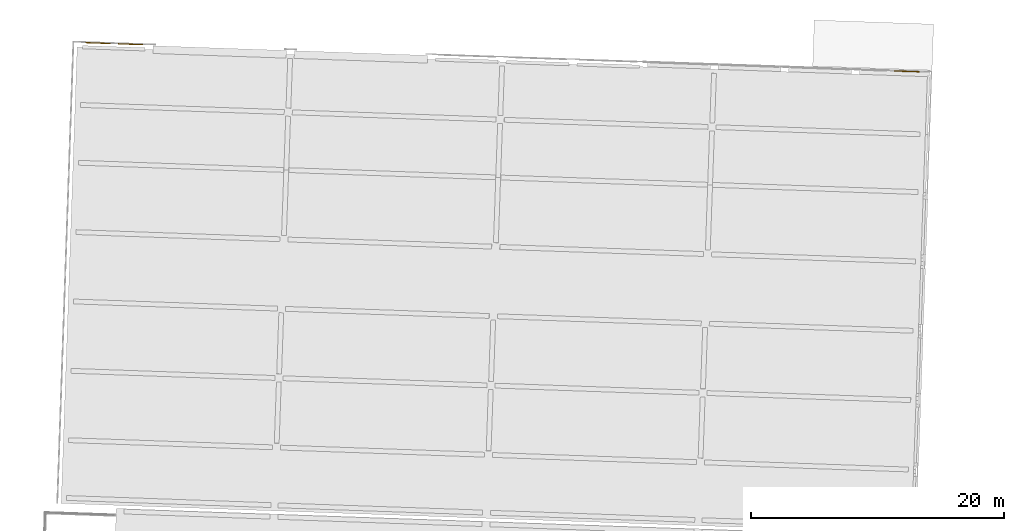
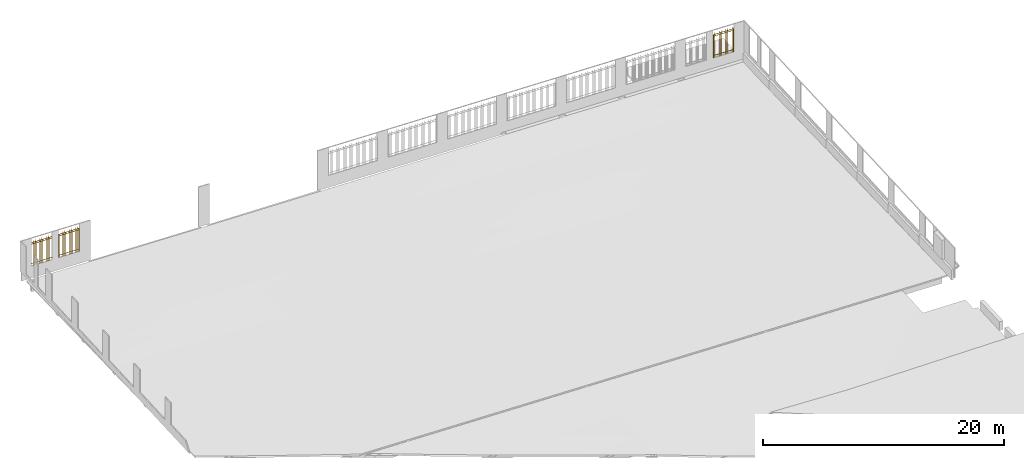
# One storey, part 16 of 17: 3 railings.
"""IFC2X3 building model written with IfcOpenShell, lengths in feet."""

from ifc_helpers import new_model, entity, si_unit, converted_unit, derived_unit, direction, frame, frame_2d, origin, origin_2d_with_axis, place, context, subcontext, project, spatial, rectangle, extrude, element, save


model = new_model("IFC2X3")

# Units and contexts
model_context = context("Model", 3, precision=0.0001, world=origin(), true_north=direction((0.999390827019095, 0.0348994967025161)))
body_context = subcontext(model_context, "Body", "Model", "MODEL_VIEW")
ifc_project = project(units=[converted_unit("LENGTHUNIT", "FOOT", entity("IfcRatioMeasure", 0.3048), si_unit("LENGTHUNIT", "METRE"), dimensions=[1, 0, 0, 0, 0, 0, 0]), converted_unit("AREAUNIT", "SQUARE FOOT", entity("IfcRatioMeasure", 0.09290304), si_unit("AREAUNIT", "SQUARE_METRE"), dimensions=[2, 0, 0, 0, 0, 0, 0]), converted_unit("VOLUMEUNIT", "CUBIC FOOT", entity("IfcRatioMeasure", 0.028316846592), si_unit("VOLUMEUNIT", "CUBIC_METRE"), dimensions=[3, 0, 0, 0, 0, 0, 0]), converted_unit("PLANEANGLEUNIT", "DEGREE", entity("IfcRatioMeasure", 0.0174532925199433), si_unit("PLANEANGLEUNIT", "RADIAN"), dimensions=[0, 0, 0, 0, 0, 0, 0]), si_unit("MASSUNIT", "GRAM", prefix="KILO"), si_unit("TIMEUNIT", "SECOND"), si_unit("FREQUENCYUNIT", "HERTZ"), si_unit("THERMODYNAMICTEMPERATUREUNIT", "DEGREE_CELSIUS"), derived_unit("THERMALTRANSMITTANCEUNIT", [(si_unit("MASSUNIT", "GRAM", prefix="KILO"), 1), (si_unit("THERMODYNAMICTEMPERATUREUNIT", "KELVIN"), -1), (si_unit("TIMEUNIT", "SECOND"), -3)]), derived_unit("VOLUMETRICFLOWRATEUNIT", [(si_unit("LENGTHUNIT", "METRE"), 3), (si_unit("TIMEUNIT", "SECOND"), -1)]), si_unit("ELECTRICCURRENTUNIT", "AMPERE"), si_unit("ELECTRICVOLTAGEUNIT", "VOLT"), si_unit("POWERUNIT", "WATT"), si_unit("FORCEUNIT", "NEWTON"), si_unit("ILLUMINANCEUNIT", "LUX"), si_unit("LUMINOUSFLUXUNIT", "LUMEN"), si_unit("LUMINOUSINTENSITYUNIT", "CANDELA"), derived_unit("USERDEFINED", [(si_unit("MASSUNIT", "GRAM", prefix="KILO"), -1), (si_unit("LENGTHUNIT", "METRE"), -2), (si_unit("TIMEUNIT", "SECOND"), 3), (si_unit("LUMINOUSFLUXUNIT", "LUMEN"), 1)]), derived_unit("LINEARVELOCITYUNIT", [(si_unit("LENGTHUNIT", "METRE"), 1), (si_unit("TIMEUNIT", "SECOND"), -1)]), si_unit("PRESSUREUNIT", "PASCAL"), derived_unit("USERDEFINED", [(si_unit("LENGTHUNIT", "METRE"), -2), (si_unit("MASSUNIT", "GRAM", prefix="KILO"), 1), (si_unit("TIMEUNIT", "SECOND"), -2)])], contexts=[model_context])

# Site, building, storey
site_placement = place(None, frame((892.518771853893, 322.38689265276, 0.00393700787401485), z_axis=(0.0, 0.0, 1.0), x_axis=(0.0348994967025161, 0.999390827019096, 0.0)))
site = spatial("IfcSite", under=ifc_project, at=site_placement, Name="Default", CompositionType="ELEMENT")
building_placement = place(site_placement, origin())
building = spatial("IfcBuilding", under=site, at=building_placement, CompositionType="ELEMENT")
storey_placement = place(building_placement, frame((0.0, 0.0, 557.0)))
storey = spatial("IfcBuildingStorey", under=building, at=storey_placement, Name="Existing Garage - 1st Level", CompositionType="ELEMENT", Elevation=557.0)

# Railings
railing_1_placement = place(storey_placement, origin())
element("IfcRailing", 1, at=railing_1_placement, inside=storey, Name="Railing:Garage Security Grille 8'-4\" High", ObjectType="Railing:Garage Security Grille 8'-4\" High", PredefinedType="NOTDEFINED", context=body_context, shape_type="SweptSolid", body=[
    extrude(rectangle(XDim=0.0625, YDim=0.0625, at=origin_2d_with_axis()), frame((224.125209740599, 244.805620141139, 0.75), z_axis=(0.0, 0.0, 1.0), x_axis=(0.0, 1.0, 0.0)), (0.0, 0.0, 1.0), 7.66666666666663),
    extrude(rectangle(XDim=0.0625, YDim=0.0625, at=origin_2d_with_axis()), frame((224.125209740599, 244.472286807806, 0.75), z_axis=(0.0, 0.0, 1.0), x_axis=(0.0, 1.0, 0.0)), (0.0, 0.0, 1.0), 8.33333333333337),
    extrude(rectangle(XDim=0.0625, YDim=0.0625, at=origin_2d_with_axis()), frame((224.125209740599, 244.138953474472, 0.75), z_axis=(0.0, 0.0, 1.0), x_axis=(0.0, 1.0, 0.0)), (0.0, 0.0, 1.0), 7.66666666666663),
    extrude(rectangle(XDim=0.0625, YDim=0.0625, at=origin_2d_with_axis()), frame((224.125209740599, 243.805620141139, 0.75), z_axis=(0.0, 0.0, 1.0), x_axis=(0.0, 1.0, 0.0)), (0.0, 0.0, 1.0), 8.33333333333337),
    extrude(rectangle(XDim=0.0625, YDim=0.0625, at=origin_2d_with_axis()), frame((224.125209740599, 243.472286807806, 0.75), z_axis=(0.0, 0.0, 1.0), x_axis=(0.0, 1.0, 0.0)), (0.0, 0.0, 1.0), 7.66666666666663),
    extrude(rectangle(XDim=0.0625, YDim=0.0625, at=origin_2d_with_axis()), frame((224.125209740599, 243.138953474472, 0.75), z_axis=(0.0, 0.0, 1.0), x_axis=(0.0, 1.0, 0.0)), (0.0, 0.0, 1.0), 8.33333333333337),
    extrude(rectangle(XDim=0.0625, YDim=0.0625, at=origin_2d_with_axis()), frame((224.125209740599, 242.805620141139, 0.75), z_axis=(0.0, 0.0, 1.0), x_axis=(0.0, 1.0, 0.0)), (0.0, 0.0, 1.0), 7.66666666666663),
    extrude(rectangle(XDim=0.0625, YDim=0.0625, at=origin_2d_with_axis()), frame((224.125209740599, 242.472286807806, 0.75), z_axis=(0.0, 0.0, 1.0), x_axis=(0.0, 1.0, 0.0)), (0.0, 0.0, 1.0), 8.33333333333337),
    extrude(rectangle(XDim=0.0625, YDim=0.0625, at=origin_2d_with_axis()), frame((224.125209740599, 242.138953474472, 0.75), z_axis=(0.0, 0.0, 1.0), x_axis=(0.0, 1.0, 0.0)), (0.0, 0.0, 1.0), 7.66666666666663),
    extrude(rectangle(XDim=0.0625, YDim=0.0625, at=origin_2d_with_axis()), frame((224.125209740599, 241.805620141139, 0.75), z_axis=(0.0, 0.0, 1.0), x_axis=(0.0, 1.0, 0.0)), (0.0, 0.0, 1.0), 8.33333333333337),
    extrude(rectangle(XDim=0.0625, YDim=0.0625, at=origin_2d_with_axis()), frame((224.125209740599, 241.472286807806, 0.75), z_axis=(0.0, 0.0, 1.0), x_axis=(0.0, 1.0, 0.0)), (0.0, 0.0, 1.0), 7.66666666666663),
    extrude(rectangle(XDim=0.0625, YDim=0.0625, at=origin_2d_with_axis()), frame((224.125209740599, 241.138953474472, 0.75), z_axis=(0.0, 0.0, 1.0), x_axis=(0.0, 1.0, 0.0)), (0.0, 0.0, 1.0), 8.33333333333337),
    extrude(rectangle(XDim=0.0625, YDim=0.0625, at=origin_2d_with_axis()), frame((224.125209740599, 240.805620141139, 0.75), z_axis=(0.0, 0.0, 1.0), x_axis=(0.0, 1.0, 0.0)), (0.0, 0.0, 1.0), 7.66666666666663),
    extrude(rectangle(XDim=0.0625, YDim=0.0625, at=origin_2d_with_axis()), frame((224.125209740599, 240.472286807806, 0.75), z_axis=(0.0, 0.0, 1.0), x_axis=(0.0, 1.0, 0.0)), (0.0, 0.0, 1.0), 8.33333333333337),
    extrude(rectangle(XDim=0.0625, YDim=0.0625, at=origin_2d_with_axis()), frame((224.125209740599, 240.138953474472, 0.75), z_axis=(0.0, 0.0, 1.0), x_axis=(0.0, 1.0, 0.0)), (0.0, 0.0, 1.0), 7.66666666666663),
    extrude(rectangle(XDim=0.0625, YDim=0.0625, at=origin_2d_with_axis()), frame((224.125209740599, 239.805620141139, 0.75), z_axis=(0.0, 0.0, 1.0), x_axis=(0.0, 1.0, 0.0)), (0.0, 0.0, 1.0), 8.33333333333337),
    extrude(rectangle(XDim=0.0625, YDim=0.0625, at=origin_2d_with_axis()), frame((224.125209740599, 239.472286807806, 0.75), z_axis=(0.0, 0.0, 1.0), x_axis=(0.0, 1.0, 0.0)), (0.0, 0.0, 1.0), 7.66666666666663),
    extrude(rectangle(XDim=0.0625, YDim=0.0625, at=origin_2d_with_axis()), frame((224.125209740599, 239.138953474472, 0.75), z_axis=(0.0, 0.0, 1.0), x_axis=(0.0, 1.0, 0.0)), (0.0, 0.0, 1.0), 8.33333333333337),
    extrude(rectangle(XDim=0.0625, YDim=0.0625, at=origin_2d_with_axis()), frame((224.125209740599, 238.805620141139, 0.75), z_axis=(0.0, 0.0, 1.0), x_axis=(0.0, 1.0, 0.0)), (0.0, 0.0, 1.0), 7.66666666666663),
    extrude(rectangle(XDim=0.0625, YDim=0.0625, at=origin_2d_with_axis()), frame((224.125209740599, 244.972286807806, 0.75), z_axis=(0.0, 0.0, 1.0), x_axis=(0.0, 1.0, 0.0)), (0.0, 0.0, 1.0), 7.66666666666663),
    extrude(rectangle(XDim=0.0625, YDim=0.0625, at=origin_2d_with_axis()), frame((224.125209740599, 238.638953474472, 0.75), z_axis=(0.0, 0.0, 1.0), x_axis=(0.0, 1.0, 0.0)), (0.0, 0.0, 1.0), 7.66666666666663),
    extrude(rectangle(XDim=6.4166666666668, YDim=0.166666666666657, at=frame_2d((0.0, 1.4210854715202e-14), x_axis=(1.0, 0.0))), frame((224.1252097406, 241.805620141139, 8.41666666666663), z_axis=(0.0, 0.0, 1.0), x_axis=(0.0, 1.0, 0.0)), (0.0, 0.0, 1.0), 0.0833333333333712),
    extrude(rectangle(XDim=6.4166666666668, YDim=0.166666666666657, at=frame_2d((0.0, 1.4210854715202e-14), x_axis=(1.0, 0.0))), frame((224.1252097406, 241.805620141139, 1.5), z_axis=(0.0, 0.0, 1.0), x_axis=(0.0, 1.0, 0.0)), (0.0, 0.0, 1.0), 0.0833333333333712),
    extrude(rectangle(XDim=6.4166666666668, YDim=0.166666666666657, at=frame_2d((0.0, 1.4210854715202e-14), x_axis=(1.0, 0.0))), frame((224.1252097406, 241.805620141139, 7.91666666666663), z_axis=(0.0, 0.0, 1.0), x_axis=(0.0, 1.0, 0.0)), (0.0, 0.0, 1.0), 0.0833333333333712),
])
railing_2_placement = place(storey_placement, origin())
element("IfcRailing", 2, at=railing_2_placement, inside=storey, Name="Railing:Garage Security Grille 8'-4\" High", ObjectType="Railing:Garage Security Grille 8'-4\" High", PredefinedType="NOTDEFINED", context=body_context, shape_type="SweptSolid", body=[
    extrude(rectangle(XDim=0.0625, YDim=0.0625, at=origin_2d_with_axis()), frame((224.125209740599, 446.305620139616, 0.75), z_axis=(0.0, 0.0, 1.0), x_axis=(0.0, 1.0, 0.0)), (0.0, 0.0, 1.0), 7.66666666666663),
    extrude(rectangle(XDim=0.0625, YDim=0.0625, at=origin_2d_with_axis()), frame((224.125209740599, 445.972286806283, 0.75), z_axis=(0.0, 0.0, 1.0), x_axis=(0.0, 1.0, 0.0)), (0.0, 0.0, 1.0), 8.33333333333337),
    extrude(rectangle(XDim=0.0625, YDim=0.0625, at=origin_2d_with_axis()), frame((224.125209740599, 445.63895347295, 0.75), z_axis=(0.0, 0.0, 1.0), x_axis=(0.0, 1.0, 0.0)), (0.0, 0.0, 1.0), 7.66666666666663),
    extrude(rectangle(XDim=0.0625, YDim=0.0625, at=origin_2d_with_axis()), frame((224.125209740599, 445.305620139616, 0.75), z_axis=(0.0, 0.0, 1.0), x_axis=(0.0, 1.0, 0.0)), (0.0, 0.0, 1.0), 8.33333333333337),
    extrude(rectangle(XDim=0.0625, YDim=0.0625, at=origin_2d_with_axis()), frame((224.125209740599, 444.972286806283, 0.75), z_axis=(0.0, 0.0, 1.0), x_axis=(0.0, 1.0, 0.0)), (0.0, 0.0, 1.0), 7.66666666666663),
    extrude(rectangle(XDim=0.0625, YDim=0.0625, at=origin_2d_with_axis()), frame((224.125209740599, 444.63895347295, 0.75), z_axis=(0.0, 0.0, 1.0), x_axis=(0.0, 1.0, 0.0)), (0.0, 0.0, 1.0), 8.33333333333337),
    extrude(rectangle(XDim=0.0625, YDim=0.0625, at=origin_2d_with_axis()), frame((224.125209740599, 444.305620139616, 0.75), z_axis=(0.0, 0.0, 1.0), x_axis=(0.0, 1.0, 0.0)), (0.0, 0.0, 1.0), 7.66666666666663),
    extrude(rectangle(XDim=0.0625, YDim=0.0625, at=origin_2d_with_axis()), frame((224.125209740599, 443.972286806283, 0.75), z_axis=(0.0, 0.0, 1.0), x_axis=(0.0, 1.0, 0.0)), (0.0, 0.0, 1.0), 8.33333333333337),
    extrude(rectangle(XDim=0.0625, YDim=0.0625, at=origin_2d_with_axis()), frame((224.125209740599, 443.63895347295, 0.75), z_axis=(0.0, 0.0, 1.0), x_axis=(0.0, 1.0, 0.0)), (0.0, 0.0, 1.0), 7.66666666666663),
    extrude(rectangle(XDim=0.0625, YDim=0.0625, at=origin_2d_with_axis()), frame((224.125209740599, 443.305620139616, 0.75), z_axis=(0.0, 0.0, 1.0), x_axis=(0.0, 1.0, 0.0)), (0.0, 0.0, 1.0), 8.33333333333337),
    extrude(rectangle(XDim=0.0625, YDim=0.0625, at=origin_2d_with_axis()), frame((224.125209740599, 442.972286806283, 0.75), z_axis=(0.0, 0.0, 1.0), x_axis=(0.0, 1.0, 0.0)), (0.0, 0.0, 1.0), 7.66666666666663),
    extrude(rectangle(XDim=0.0625, YDim=0.0625, at=origin_2d_with_axis()), frame((224.125209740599, 442.63895347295, 0.75), z_axis=(0.0, 0.0, 1.0), x_axis=(0.0, 1.0, 0.0)), (0.0, 0.0, 1.0), 8.33333333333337),
    extrude(rectangle(XDim=0.0625, YDim=0.0625, at=origin_2d_with_axis()), frame((224.125209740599, 442.305620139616, 0.75), z_axis=(0.0, 0.0, 1.0), x_axis=(0.0, 1.0, 0.0)), (0.0, 0.0, 1.0), 7.66666666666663),
    extrude(rectangle(XDim=0.0625, YDim=0.0625, at=origin_2d_with_axis()), frame((224.125209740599, 441.972286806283, 0.75), z_axis=(0.0, 0.0, 1.0), x_axis=(0.0, 1.0, 0.0)), (0.0, 0.0, 1.0), 8.33333333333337),
    extrude(rectangle(XDim=0.0625, YDim=0.0625, at=origin_2d_with_axis()), frame((224.125209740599, 441.63895347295, 0.75), z_axis=(0.0, 0.0, 1.0), x_axis=(0.0, 1.0, 0.0)), (0.0, 0.0, 1.0), 7.66666666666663),
    extrude(rectangle(XDim=0.0625, YDim=0.0625, at=origin_2d_with_axis()), frame((224.125209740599, 441.305620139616, 0.75), z_axis=(0.0, 0.0, 1.0), x_axis=(0.0, 1.0, 0.0)), (0.0, 0.0, 1.0), 8.33333333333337),
    extrude(rectangle(XDim=0.0625, YDim=0.0625, at=origin_2d_with_axis()), frame((224.125209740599, 440.972286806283, 0.75), z_axis=(0.0, 0.0, 1.0), x_axis=(0.0, 1.0, 0.0)), (0.0, 0.0, 1.0), 7.66666666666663),
    extrude(rectangle(XDim=0.0625, YDim=0.0625, at=origin_2d_with_axis()), frame((224.125209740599, 440.63895347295, 0.75), z_axis=(0.0, 0.0, 1.0), x_axis=(0.0, 1.0, 0.0)), (0.0, 0.0, 1.0), 8.33333333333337),
    extrude(rectangle(XDim=0.0625, YDim=0.0625, at=origin_2d_with_axis()), frame((224.125209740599, 440.305620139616, 0.75), z_axis=(0.0, 0.0, 1.0), x_axis=(0.0, 1.0, 0.0)), (0.0, 0.0, 1.0), 7.66666666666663),
    extrude(rectangle(XDim=0.0625, YDim=0.0625, at=origin_2d_with_axis()), frame((224.125209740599, 446.472286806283, 0.75), z_axis=(0.0, 0.0, 1.0), x_axis=(0.0, 1.0, 0.0)), (0.0, 0.0, 1.0), 7.66666666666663),
    extrude(rectangle(XDim=0.0625, YDim=0.0625, at=origin_2d_with_axis()), frame((224.125209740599, 440.13895347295, 0.75), z_axis=(0.0, 0.0, 1.0), x_axis=(0.0, 1.0, 0.0)), (0.0, 0.0, 1.0), 7.66666666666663),
    extrude(rectangle(XDim=6.4166666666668, YDim=0.166666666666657, at=frame_2d((-2.8421709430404e-14, 1.4210854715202e-14), x_axis=(1.0, 0.0))), frame((224.1252097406, 443.305620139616, 8.41666666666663), z_axis=(0.0, 0.0, 1.0), x_axis=(0.0, 1.0, 0.0)), (0.0, 0.0, 1.0), 0.0833333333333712),
    extrude(rectangle(XDim=6.4166666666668, YDim=0.166666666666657, at=frame_2d((-2.8421709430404e-14, 1.4210854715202e-14), x_axis=(1.0, 0.0))), frame((224.1252097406, 443.305620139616, 1.5), z_axis=(0.0, 0.0, 1.0), x_axis=(0.0, 1.0, 0.0)), (0.0, 0.0, 1.0), 0.0833333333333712),
    extrude(rectangle(XDim=6.4166666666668, YDim=0.166666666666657, at=frame_2d((-2.8421709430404e-14, 1.4210854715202e-14), x_axis=(1.0, 0.0))), frame((224.1252097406, 443.305620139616, 7.91666666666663), z_axis=(0.0, 0.0, 1.0), x_axis=(0.0, 1.0, 0.0)), (0.0, 0.0, 1.0), 0.0833333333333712),
])
railing_3_placement = place(storey_placement, origin())
element("IfcRailing", 3, at=railing_3_placement, inside=storey, Name="Railing:Garage Security Grille 8'-4\" High", ObjectType="Railing:Garage Security Grille 8'-4\" High", PredefinedType="NOTDEFINED", context=body_context, shape_type="SweptSolid", body=[
    extrude(rectangle(XDim=0.0625, YDim=0.0625, at=origin_2d_with_axis()), frame((224.125209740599, 454.722286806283, 0.75), z_axis=(0.0, 0.0, 1.0), x_axis=(0.0, 1.0, 0.0)), (0.0, 0.0, 1.0), 7.66666666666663),
    extrude(rectangle(XDim=0.0625, YDim=0.0625, at=origin_2d_with_axis()), frame((224.125209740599, 454.38895347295, 0.75), z_axis=(0.0, 0.0, 1.0), x_axis=(0.0, 1.0, 0.0)), (0.0, 0.0, 1.0), 8.33333333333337),
    extrude(rectangle(XDim=0.0625, YDim=0.0625, at=origin_2d_with_axis()), frame((224.125209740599, 454.055620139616, 0.75), z_axis=(0.0, 0.0, 1.0), x_axis=(0.0, 1.0, 0.0)), (0.0, 0.0, 1.0), 7.66666666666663),
    extrude(rectangle(XDim=0.0625, YDim=0.0625, at=origin_2d_with_axis()), frame((224.125209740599, 453.722286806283, 0.75), z_axis=(0.0, 0.0, 1.0), x_axis=(0.0, 1.0, 0.0)), (0.0, 0.0, 1.0), 8.33333333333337),
    extrude(rectangle(XDim=0.0625, YDim=0.0625, at=origin_2d_with_axis()), frame((224.125209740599, 453.38895347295, 0.75), z_axis=(0.0, 0.0, 1.0), x_axis=(0.0, 1.0, 0.0)), (0.0, 0.0, 1.0), 7.66666666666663),
    extrude(rectangle(XDim=0.0625, YDim=0.0625, at=origin_2d_with_axis()), frame((224.125209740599, 453.055620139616, 0.75), z_axis=(0.0, 0.0, 1.0), x_axis=(0.0, 1.0, 0.0)), (0.0, 0.0, 1.0), 8.33333333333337),
    extrude(rectangle(XDim=0.0625, YDim=0.0625, at=origin_2d_with_axis()), frame((224.125209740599, 452.722286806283, 0.75), z_axis=(0.0, 0.0, 1.0), x_axis=(0.0, 1.0, 0.0)), (0.0, 0.0, 1.0), 7.66666666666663),
    extrude(rectangle(XDim=0.0625, YDim=0.0625, at=origin_2d_with_axis()), frame((224.125209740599, 452.38895347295, 0.75), z_axis=(0.0, 0.0, 1.0), x_axis=(0.0, 1.0, 0.0)), (0.0, 0.0, 1.0), 8.33333333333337),
    extrude(rectangle(XDim=0.0625, YDim=0.0625, at=origin_2d_with_axis()), frame((224.125209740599, 452.055620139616, 0.75), z_axis=(0.0, 0.0, 1.0), x_axis=(0.0, 1.0, 0.0)), (0.0, 0.0, 1.0), 7.66666666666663),
    extrude(rectangle(XDim=0.0625, YDim=0.0625, at=origin_2d_with_axis()), frame((224.125209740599, 451.722286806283, 0.75), z_axis=(0.0, 0.0, 1.0), x_axis=(0.0, 1.0, 0.0)), (0.0, 0.0, 1.0), 8.33333333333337),
    extrude(rectangle(XDim=0.0625, YDim=0.0625, at=origin_2d_with_axis()), frame((224.125209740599, 451.38895347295, 0.75), z_axis=(0.0, 0.0, 1.0), x_axis=(0.0, 1.0, 0.0)), (0.0, 0.0, 1.0), 7.66666666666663),
    extrude(rectangle(XDim=0.0625, YDim=0.0625, at=origin_2d_with_axis()), frame((224.125209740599, 451.055620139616, 0.75), z_axis=(0.0, 0.0, 1.0), x_axis=(0.0, 1.0, 0.0)), (0.0, 0.0, 1.0), 8.33333333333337),
    extrude(rectangle(XDim=0.0625, YDim=0.0625, at=origin_2d_with_axis()), frame((224.125209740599, 450.722286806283, 0.75), z_axis=(0.0, 0.0, 1.0), x_axis=(0.0, 1.0, 0.0)), (0.0, 0.0, 1.0), 7.66666666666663),
    extrude(rectangle(XDim=0.0625, YDim=0.0625, at=origin_2d_with_axis()), frame((224.125209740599, 450.38895347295, 0.75), z_axis=(0.0, 0.0, 1.0), x_axis=(0.0, 1.0, 0.0)), (0.0, 0.0, 1.0), 8.33333333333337),
    extrude(rectangle(XDim=0.0625, YDim=0.0625, at=origin_2d_with_axis()), frame((224.125209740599, 450.055620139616, 0.75), z_axis=(0.0, 0.0, 1.0), x_axis=(0.0, 1.0, 0.0)), (0.0, 0.0, 1.0), 7.66666666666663),
    extrude(rectangle(XDim=0.0625, YDim=0.0625, at=origin_2d_with_axis()), frame((224.125209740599, 449.722286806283, 0.75), z_axis=(0.0, 0.0, 1.0), x_axis=(0.0, 1.0, 0.0)), (0.0, 0.0, 1.0), 8.33333333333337),
    extrude(rectangle(XDim=0.0625, YDim=0.0625, at=origin_2d_with_axis()), frame((224.125209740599, 449.38895347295, 0.75), z_axis=(0.0, 0.0, 1.0), x_axis=(0.0, 1.0, 0.0)), (0.0, 0.0, 1.0), 7.66666666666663),
    extrude(rectangle(XDim=0.0625, YDim=0.0625, at=origin_2d_with_axis()), frame((224.125209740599, 449.055620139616, 0.75), z_axis=(0.0, 0.0, 1.0), x_axis=(0.0, 1.0, 0.0)), (0.0, 0.0, 1.0), 8.33333333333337),
    extrude(rectangle(XDim=0.0625, YDim=0.0625, at=origin_2d_with_axis()), frame((224.125209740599, 448.722286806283, 0.75), z_axis=(0.0, 0.0, 1.0), x_axis=(0.0, 1.0, 0.0)), (0.0, 0.0, 1.0), 7.66666666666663),
    extrude(rectangle(XDim=0.0625, YDim=0.0625, at=origin_2d_with_axis()), frame((224.125209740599, 454.88895347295, 0.75), z_axis=(0.0, 0.0, 1.0), x_axis=(0.0, 1.0, 0.0)), (0.0, 0.0, 1.0), 7.66666666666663),
    extrude(rectangle(XDim=0.0625, YDim=0.0625, at=origin_2d_with_axis()), frame((224.125209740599, 448.555620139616, 0.75), z_axis=(0.0, 0.0, 1.0), x_axis=(0.0, 1.0, 0.0)), (0.0, 0.0, 1.0), 7.66666666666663),
    extrude(rectangle(XDim=6.4166666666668, YDim=0.166666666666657, at=frame_2d((2.8421709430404e-14, 1.4210854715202e-14), x_axis=(1.0, 0.0))), frame((224.1252097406, 451.722286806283, 8.41666666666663), z_axis=(0.0, 0.0, 1.0), x_axis=(0.0, 1.0, 0.0)), (0.0, 0.0, 1.0), 0.0833333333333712),
    extrude(rectangle(XDim=6.4166666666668, YDim=0.166666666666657, at=frame_2d((2.8421709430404e-14, 1.4210854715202e-14), x_axis=(1.0, 0.0))), frame((224.1252097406, 451.722286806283, 1.5), z_axis=(0.0, 0.0, 1.0), x_axis=(0.0, 1.0, 0.0)), (0.0, 0.0, 1.0), 0.0833333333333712),
    extrude(rectangle(XDim=6.4166666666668, YDim=0.166666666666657, at=frame_2d((2.8421709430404e-14, 1.4210854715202e-14), x_axis=(1.0, 0.0))), frame((224.1252097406, 451.722286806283, 7.91666666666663), z_axis=(0.0, 0.0, 1.0), x_axis=(0.0, 1.0, 0.0)), (0.0, 0.0, 1.0), 0.0833333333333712),
])

save(model, "model.ifc")
